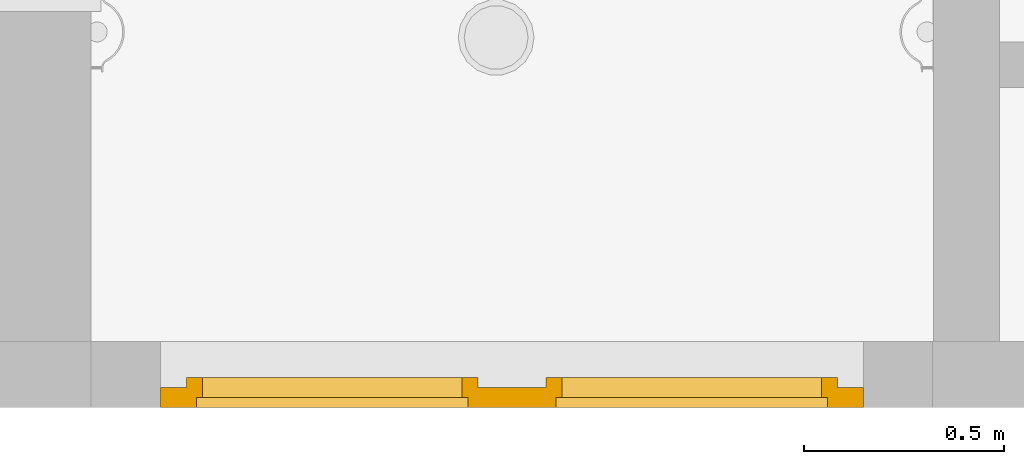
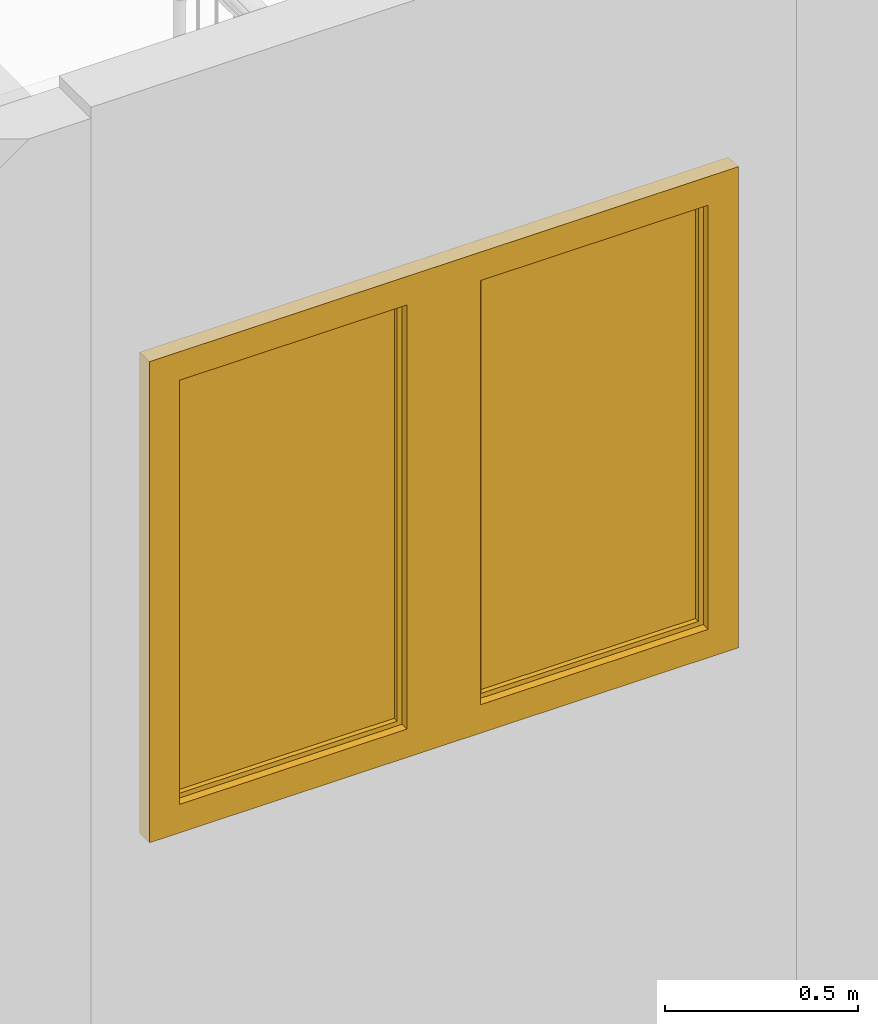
# One storey, part 34 of 77: 1 window.
"""IFC2X3 building model written with IfcOpenShell, lengths in inches."""

from ifc_helpers import new_model, entity, si_unit, converted_unit, derived_unit, money_unit, direction, frame, origin_with_axes, place, context, subcontext, project, spatial, open_shell, faceted_brep, surface_model, type_object, element, save


model = new_model("IFC2X3")

# Units and contexts
model_context = context("Model", 3, precision=0.000393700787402, world=origin_with_axes(), true_north=direction((0.0, 1.0)))
body_context = subcontext(model_context, "Body", "Model", "MODEL_VIEW")
ifc_project = project(units=[converted_unit("LENGTHUNIT", "INCH", entity("IfcPositiveLengthMeasure", 0.0254), si_unit("LENGTHUNIT", "METRE"), dimensions=[1, 0, 0, 0, 0, 0, 0]), converted_unit("AREAUNIT", "SQUARE_FOOT", entity("IfcPositiveLengthMeasure", 0.09290304), si_unit("AREAUNIT", "SQUARE_METRE"), dimensions=[2, 0, 0, 0, 0, 0, 0]), si_unit("PLANEANGLEUNIT", "RADIAN"), si_unit("SOLIDANGLEUNIT", "STERADIAN"), money_unit("USD"), converted_unit("TIMEUNIT", "Year", entity("IfcTimeMeasure", 31556926.0), si_unit("TIMEUNIT", "SECOND"), dimensions=[0, 0, 1, 0, 0, 0, 0]), si_unit("MASSUNIT", "GRAM", prefix="KILO"), si_unit("THERMODYNAMICTEMPERATUREUNIT", "DEGREE_CELSIUS"), si_unit("LUMINOUSINTENSITYUNIT", "LUMEN"), si_unit("ENERGYUNIT", "JOULE", prefix="MEGA"), derived_unit("THERMALCONDUCTANCEUNIT", [(si_unit("POWERUNIT", "WATT"), 1), (si_unit("LENGTHUNIT", "METRE"), -1), (si_unit("THERMODYNAMICTEMPERATUREUNIT", "KELVIN"), -1)]), derived_unit("SPECIFICHEATCAPACITYUNIT", [(si_unit("ENERGYUNIT", "JOULE"), 1), (si_unit("MASSUNIT", "GRAM", prefix="KILO"), -1), (si_unit("THERMODYNAMICTEMPERATUREUNIT", "KELVIN"), -1)]), derived_unit("MASSDENSITYUNIT", [(si_unit("MASSUNIT", "GRAM", prefix="KILO"), 1), (si_unit("VOLUMEUNIT", "CUBIC_METRE"), -1)])], contexts=[model_context])

# Site, building, storey
site_placement = place(None, origin_with_axes())
site = spatial("IfcSite", under=ifc_project, at=site_placement, Name="Site", CompositionType="ELEMENT")
building_placement = place(site_placement, origin_with_axes())
building = spatial("IfcBuilding", under=site, at=building_placement, Name="Building", CompositionType="ELEMENT")
storey_placement = place(building_placement, frame((0.0, 0.0, 127.952755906), z_axis=(0.0, 0.0, 1.0), x_axis=(1.0, 0.0, 0.0)))
storey = spatial("IfcBuildingStorey", under=building, at=storey_placement, Name="Second Floor", CompositionType="ELEMENT", Elevation=127.953)

# Window
window_style = type_object("IfcWindowStyle", Name="Double Window 25", ConstructionType="NOTDEFINED", OperationType="DOUBLE_PANEL_VERTICAL", ParameterTakesPrecedence=False, Sizeable=False)
window_placement = place(storey_placement, frame((650.867731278, 19.4075913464, 32.0828456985), z_axis=(0.0, 0.0, 1.0), x_axis=(0.999999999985, -5.50291021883e-06, 0.0)))
element("IfcWindow", 1, at=window_placement, inside=storey, type_object=window_style, Name="W-18", OverallHeight=59.8463, OverallWidth=69.2913, context=body_context, shape_type="SurfaceModel", body=[
    faceted_brep([(66.7322834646, -4.53149606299, 56.3029810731), (66.7322834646, -5.5157480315, 56.3029810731), (65.7480314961, -5.5157480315, 56.3029810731), (65.7480314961, -6.5, 56.3029810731), (69.2913385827, -6.5, 56.3029810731), (69.2913385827, -4.53149606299, 56.3029810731), (66.7322834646, -4.53149606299, 3.54330708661), (66.7322834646, -5.5157480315, 3.54330708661), (65.7480314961, -5.5157480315, 3.54330708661), (65.7480314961, -6.5, 3.54330708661), (69.2913385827, -6.5, 3.54330708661), (69.2913385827, -4.53149606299, 3.54330708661)], [[[0, 1, 2, 3, 4, 5]], [[1, 0, 6, 7]], [[8, 2, 1, 7]], [[2, 8, 9, 3]], [[4, 3, 9, 10]], [[5, 4, 10, 11]], [[6, 0, 5, 11]], [[7, 6, 11, 10, 9, 8]]]),
    faceted_brep([(3.54330708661, -5.5157480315, 56.3029810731), (2.55905511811, -5.5157480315, 56.3029810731), (2.55905511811, -4.53149606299, 56.3029810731), (0.0, -4.53149606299, 56.3029810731), (0.0, -6.5, 56.3029810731), (3.54330708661, -6.5, 56.3029810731), (3.54330708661, -5.5157480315, 3.54330708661), (2.55905511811, -5.5157480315, 3.54330708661), (2.55905511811, -4.53149606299, 3.54330708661), (0.0, -4.53149606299, 3.54330708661), (0.0, -6.5, 3.54330708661), (3.54330708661, -6.5, 3.54330708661)], [[[0, 1, 2, 3, 4, 5]], [[1, 0, 6, 7]], [[8, 2, 1, 7]], [[2, 8, 9, 3]], [[9, 10, 4, 3]], [[10, 11, 5, 4]], [[6, 0, 5, 11]], [[7, 6, 11, 10, 9, 8]]]),
    faceted_brep([(38.9763779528, -5.5157480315, 56.3029810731), (37.9921259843, -5.5157480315, 56.3029810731), (37.9921259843, -4.53149606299, 56.3029810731), (31.2992125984, -4.53149606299, 56.3029810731), (31.2992125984, -5.5157480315, 56.3029810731), (30.3149606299, -5.5157480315, 56.3029810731), (30.3149606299, -6.5, 56.3029810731), (38.9763779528, -6.5, 56.3029810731), (38.9763779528, -5.5157480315, 3.54330708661), (37.9921259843, -5.5157480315, 3.54330708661), (37.9921259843, -4.53149606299, 3.54330708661), (31.2992125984, -4.53149606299, 3.54330708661), (31.2992125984, -5.5157480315, 3.54330708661), (30.3149606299, -5.5157480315, 3.54330708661), (30.3149606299, -6.5, 3.54330708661), (38.9763779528, -6.5, 3.54330708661)], [[[0, 1, 2, 3, 4, 5, 6, 7]], [[1, 0, 8, 9]], [[10, 2, 1, 9]], [[2, 10, 11, 3]], [[4, 3, 11, 12]], [[13, 5, 4, 12]], [[5, 13, 14, 6]], [[14, 15, 7, 6]], [[8, 0, 7, 15]], [[9, 8, 15, 14, 13, 12, 11, 10]]]),
    faceted_brep([(38.9763779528, -5.5157480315, 3.54330708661), (37.9921259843, -5.5157480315, 3.54330708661), (37.9921259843, -4.53149606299, 3.54330708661), (31.2992125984, -4.53149606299, 3.54330708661), (31.2992125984, -5.5157480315, 3.54330708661), (30.3149606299, -5.5157480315, 3.54330708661), (30.3149606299, -6.5, 3.54330708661), (38.9763779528, -6.5, 3.54330708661), (65.7480314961, -5.5157480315, 3.54330708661), (66.7322834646, -5.5157480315, 3.54330708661), (66.7322834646, -5.5157480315, 2.55905511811), (37.9921259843, -5.5157480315, 2.55905511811), (37.9921259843, -4.53149606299, 2.55905511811), (66.7322834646, -4.53149606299, 2.55905511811), (66.7322834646, -4.53149606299, 3.54330708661), (69.2913385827, -4.53149606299, 3.54330708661), (69.2913385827, -4.53149606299, 0.0), (0.0, -4.53149606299, 0.0), (0.0, -4.53149606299, 3.54330708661), (2.55905511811, -4.53149606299, 3.54330708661), (2.55905511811, -4.53149606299, 2.55905511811), (31.2992125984, -4.53149606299, 2.55905511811), (31.2992125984, -5.5157480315, 2.55905511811), (2.55905511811, -5.5157480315, 3.54330708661), (3.54330708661, -5.5157480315, 3.54330708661), (2.55905511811, -5.5157480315, 2.55905511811), (3.54330708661, -6.5, 3.54330708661), (69.2913385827, -6.5, 3.54330708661), (65.7480314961, -6.5, 3.54330708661), (0.0, -6.5, 3.54330708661), (0.0, -6.5, 0.0), (69.2913385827, -6.5, 0.0)], [[[0, 1, 2, 3, 4, 5, 6, 7]], [[1, 0, 8, 9, 10, 11]], [[12, 2, 1, 11]], [[13, 14, 15, 16, 17, 18, 19, 20, 21, 3, 2, 12]], [[4, 3, 21, 22]], [[23, 24, 5, 4, 22, 25]], [[5, 24, 26, 6]], [[27, 28, 7, 6, 26, 29, 30, 31]], [[8, 0, 7, 28]], [[9, 8, 28, 27, 15, 14]], [[9, 14, 13, 10]], [[13, 12, 11, 10]], [[15, 27, 31, 16]], [[16, 31, 30, 17]], [[17, 30, 29, 18]], [[24, 23, 19, 18, 29, 26]], [[20, 19, 23, 25]], [[21, 20, 25, 22]]]),
    faceted_brep([(66.7322834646, -4.53149606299, 56.3029810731), (66.7322834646, -4.53149606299, 57.2872330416), (37.9921259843, -4.53149606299, 57.2872330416), (37.9921259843, -4.53149606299, 56.3029810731), (31.2992125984, -4.53149606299, 56.3029810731), (31.2992125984, -4.53149606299, 57.2872330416), (2.55905511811, -4.53149606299, 57.2872330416), (2.55905511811, -4.53149606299, 56.3029810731), (0.0, -4.53149606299, 56.3029810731), (0.0, -4.53149606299, 59.8462881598), (69.2913385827, -4.53149606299, 59.8462881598), (69.2913385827, -4.53149606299, 56.3029810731), (66.7322834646, -5.5157480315, 56.3029810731), (66.7322834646, -5.5157480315, 57.2872330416), (37.9921259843, -5.5157480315, 57.2872330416), (37.9921259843, -5.5157480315, 56.3029810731), (38.9763779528, -5.5157480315, 56.3029810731), (38.9763779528, -6.5, 56.3029810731), (30.3149606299, -6.5, 56.3029810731), (30.3149606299, -5.5157480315, 56.3029810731), (31.2992125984, -5.5157480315, 56.3029810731), (31.2992125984, -5.5157480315, 57.2872330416), (2.55905511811, -5.5157480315, 57.2872330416), (2.55905511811, -5.5157480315, 56.3029810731), (3.54330708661, -5.5157480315, 56.3029810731), (3.54330708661, -6.5, 56.3029810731), (0.0, -6.5, 56.3029810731), (0.0, -6.5, 59.8462881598), (69.2913385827, -6.5, 59.8462881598), (69.2913385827, -6.5, 56.3029810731), (65.7480314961, -6.5, 56.3029810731), (65.7480314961, -5.5157480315, 56.3029810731)], [[[0, 1, 2, 3, 4, 5, 6, 7, 8, 9, 10, 11]], [[1, 0, 12, 13]], [[2, 1, 13, 14]], [[3, 2, 14, 15]], [[15, 16, 17, 18, 19, 20, 4, 3]], [[5, 4, 20, 21]], [[6, 5, 21, 22]], [[7, 6, 22, 23]], [[23, 24, 25, 26, 8, 7]], [[8, 26, 27, 9]], [[9, 27, 28, 10]], [[10, 28, 29, 11]], [[12, 0, 11, 29, 30, 31]], [[16, 15, 14, 13, 12, 31]], [[16, 31, 30, 17]], [[18, 17, 30, 29, 28, 27, 26, 25]], [[24, 19, 18, 25]], [[24, 23, 22, 21, 20, 19]]]),
    faceted_brep([(65.157480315, -5.5157480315, 55.712429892), (66.7322834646, -5.5157480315, 55.712429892), (66.7322834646, -3.54724409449, 55.712429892), (65.157480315, -3.54724409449, 55.712429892), (65.157480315, -5.5157480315, 4.13385826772), (66.7322834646, -5.5157480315, 4.13385826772), (66.7322834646, -3.54724409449, 4.13385826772), (65.157480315, -3.54724409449, 4.13385826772)], [[[0, 1, 2, 3]], [[0, 4, 5, 1]], [[1, 5, 6, 2]], [[3, 2, 6, 7]], [[4, 0, 3, 7]], [[5, 4, 7, 6]]]),
    faceted_brep([(39.5669291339, -5.5157480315, 4.13385826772), (37.9921259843, -5.5157480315, 4.13385826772), (37.9921259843, -3.54724409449, 4.13385826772), (39.5669291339, -3.54724409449, 4.13385826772), (39.5669291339, -5.5157480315, 55.712429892), (37.9921259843, -5.5157480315, 55.712429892), (37.9921259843, -3.54724409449, 55.712429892), (39.5669291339, -3.54724409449, 55.712429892)], [[[0, 1, 2, 3]], [[0, 4, 5, 1]], [[1, 5, 6, 2]], [[3, 2, 6, 7]], [[4, 0, 3, 7]], [[5, 4, 7, 6]]]),
    faceted_brep([(37.9921259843, -5.5157480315, 2.55905511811), (37.9921259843, -5.5157480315, 4.13385826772), (37.9921259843, -3.54724409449, 4.13385826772), (37.9921259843, -3.54724409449, 2.55905511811), (66.7322834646, -5.5157480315, 2.55905511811), (66.7322834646, -5.5157480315, 4.13385826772), (65.157480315, -5.5157480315, 4.13385826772), (39.5669291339, -5.5157480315, 4.13385826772), (39.5669291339, -3.54724409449, 4.13385826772), (65.157480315, -3.54724409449, 4.13385826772), (66.7322834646, -3.54724409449, 4.13385826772), (66.7322834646, -3.54724409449, 2.55905511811)], [[[0, 1, 2, 3]], [[0, 4, 5, 6, 7, 1]], [[1, 7, 8, 2]], [[3, 2, 8, 9, 10, 11]], [[4, 0, 3, 11]], [[5, 4, 11, 10]], [[6, 5, 10, 9]], [[7, 6, 9, 8]]]),
    faceted_brep([(66.7322834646, -5.5157480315, 57.2872330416), (66.7322834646, -5.5157480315, 55.712429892), (66.7322834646, -3.54724409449, 55.712429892), (66.7322834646, -3.54724409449, 57.2872330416), (37.9921259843, -5.5157480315, 57.2872330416), (37.9921259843, -5.5157480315, 55.712429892), (39.5669291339, -5.5157480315, 55.712429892), (65.157480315, -5.5157480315, 55.712429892), (65.157480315, -3.54724409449, 55.712429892), (39.5669291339, -3.54724409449, 55.712429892), (37.9921259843, -3.54724409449, 55.712429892), (37.9921259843, -3.54724409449, 57.2872330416)], [[[0, 1, 2, 3]], [[0, 4, 5, 6, 7, 1]], [[1, 7, 8, 2]], [[3, 2, 8, 9, 10, 11]], [[4, 0, 3, 11]], [[5, 4, 11, 10]], [[6, 5, 10, 9]], [[7, 6, 9, 8]]]),
    surface_model("IfcShellBasedSurfaceModel", [(65.157480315, -4.92519685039, 4.13385826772), (65.157480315, -4.92519685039, 55.712429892), (39.5669291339, -4.92519685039, 55.712429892), (39.5669291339, -4.92519685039, 4.13385826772)], [open_shell([[[0, 1, 2, 3]]])]),
    surface_model("IfcShellBasedSurfaceModel", [(65.157480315, -4.13779527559, 4.13385826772), (39.5669291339, -4.13779527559, 4.13385826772), (39.5669291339, -4.13779527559, 55.712429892), (65.157480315, -4.13779527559, 55.712429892)], [open_shell([[[0, 1, 2, 3]]])]),
    faceted_brep([(29.7244094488, -5.5157480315, 55.712429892), (31.2992125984, -5.5157480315, 55.712429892), (31.2992125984, -3.54724409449, 55.712429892), (29.7244094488, -3.54724409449, 55.712429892), (29.7244094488, -5.5157480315, 4.13385826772), (31.2992125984, -5.5157480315, 4.13385826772), (31.2992125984, -3.54724409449, 4.13385826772), (29.7244094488, -3.54724409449, 4.13385826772)], [[[0, 1, 2, 3]], [[0, 4, 5, 1]], [[1, 5, 6, 2]], [[3, 2, 6, 7]], [[4, 0, 3, 7]], [[5, 4, 7, 6]]]),
    faceted_brep([(4.13385826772, -5.5157480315, 4.13385826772), (2.55905511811, -5.5157480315, 4.13385826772), (2.55905511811, -3.54724409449, 4.13385826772), (4.13385826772, -3.54724409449, 4.13385826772), (4.13385826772, -5.5157480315, 55.712429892), (2.55905511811, -5.5157480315, 55.712429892), (2.55905511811, -3.54724409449, 55.712429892), (4.13385826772, -3.54724409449, 55.712429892)], [[[0, 1, 2, 3]], [[0, 4, 5, 1]], [[1, 5, 6, 2]], [[3, 2, 6, 7]], [[4, 0, 3, 7]], [[5, 4, 7, 6]]]),
    faceted_brep([(2.55905511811, -5.5157480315, 2.55905511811), (2.55905511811, -5.5157480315, 4.13385826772), (2.55905511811, -3.54724409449, 4.13385826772), (2.55905511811, -3.54724409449, 2.55905511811), (31.2992125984, -5.5157480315, 2.55905511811), (31.2992125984, -5.5157480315, 4.13385826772), (29.7244094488, -5.5157480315, 4.13385826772), (4.13385826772, -5.5157480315, 4.13385826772), (4.13385826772, -3.54724409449, 4.13385826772), (29.7244094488, -3.54724409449, 4.13385826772), (31.2992125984, -3.54724409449, 4.13385826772), (31.2992125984, -3.54724409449, 2.55905511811)], [[[0, 1, 2, 3]], [[0, 4, 5, 6, 7, 1]], [[1, 7, 8, 2]], [[3, 2, 8, 9, 10, 11]], [[4, 0, 3, 11]], [[5, 4, 11, 10]], [[6, 5, 10, 9]], [[7, 6, 9, 8]]]),
    faceted_brep([(31.2992125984, -5.5157480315, 57.2872330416), (31.2992125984, -5.5157480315, 55.712429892), (31.2992125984, -3.54724409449, 55.712429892), (31.2992125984, -3.54724409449, 57.2872330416), (2.55905511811, -5.5157480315, 57.2872330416), (2.55905511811, -5.5157480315, 55.712429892), (4.13385826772, -5.5157480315, 55.712429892), (29.7244094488, -5.5157480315, 55.712429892), (29.7244094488, -3.54724409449, 55.712429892), (4.13385826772, -3.54724409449, 55.712429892), (2.55905511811, -3.54724409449, 55.712429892), (2.55905511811, -3.54724409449, 57.2872330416)], [[[0, 1, 2, 3]], [[0, 4, 5, 6, 7, 1]], [[1, 7, 8, 2]], [[3, 2, 8, 9, 10, 11]], [[4, 0, 3, 11]], [[5, 4, 11, 10]], [[6, 5, 10, 9]], [[7, 6, 9, 8]]]),
    surface_model("IfcShellBasedSurfaceModel", [(29.7244094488, -4.92519685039, 4.13385826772), (29.7244094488, -4.92519685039, 55.712429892), (4.13385826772, -4.92519685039, 55.712429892), (4.13385826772, -4.92519685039, 4.13385826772)], [open_shell([[[0, 1, 2, 3]]])]),
    surface_model("IfcShellBasedSurfaceModel", [(29.7244094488, -4.13779527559, 4.13385826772), (4.13385826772, -4.13779527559, 4.13385826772), (4.13385826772, -4.13779527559, 55.712429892), (29.7244094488, -4.13779527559, 55.712429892)], [open_shell([[[0, 1, 2, 3]]])]),
])

save(model, "model.ifc")
